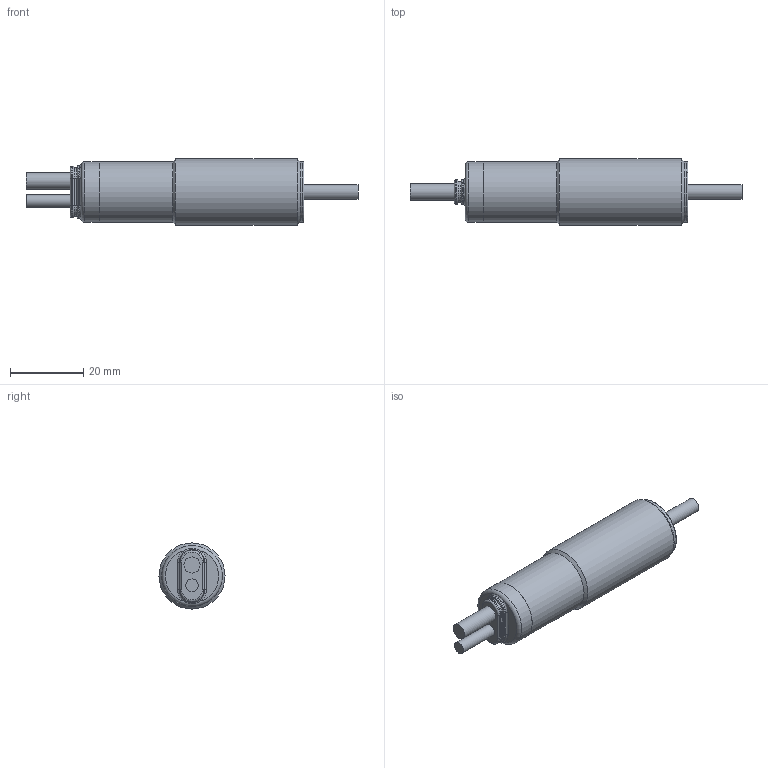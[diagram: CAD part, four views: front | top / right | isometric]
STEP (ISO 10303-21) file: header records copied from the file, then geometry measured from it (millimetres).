
FILE_DESCRIPTION((''),'2;1');
FILE_NAME('J:\Projekte\Kunststoff-Blechteile\Zeichnungen\Bibliothek Inventor\3D Solids\dbk+4\STP\dbk+4_Empf_MXX_XXX_M18.stp','2010-01-28T13:44:52',('Oliver Liedtke'),(''),'Autodesk Inventor 2009','Autodesk Inventor 2009','');
FILE_SCHEMA(('AUTOMOTIVE_DESIGN { 1 0 10303 214 1 1 1 1 }'));
Length unit declared in the file: millimetre
Products named in the file (1): dbk+4_Empf_MXX_XXX_M18
Bounding box: 90.5 x 18 x 18 mm (x, y, z)
Volume: 15062 mm3; surface area: 4337.4 mm2
Topology: 1 solids, 1 shells, 63 faces, 128 edges, 74 vertices
Faces by surface type: cylinder 21, plane 17, bspline 10, torus 9, cone 6
Full cylindrical faces by diameter (mm): 3.4 x1, 4 x1, 4.4 x1, 16.5 x2, 16.52 x1, 18 x1
Entity records: 2100 total; most frequent: CARTESIAN_POINT 688, DIRECTION 294, ORIENTED_EDGE 230, AXIS2_PLACEMENT_3D 129, EDGE_CURVE 115, EDGE_LOOP 82, CIRCLE 75, VERTEX_POINT 73
